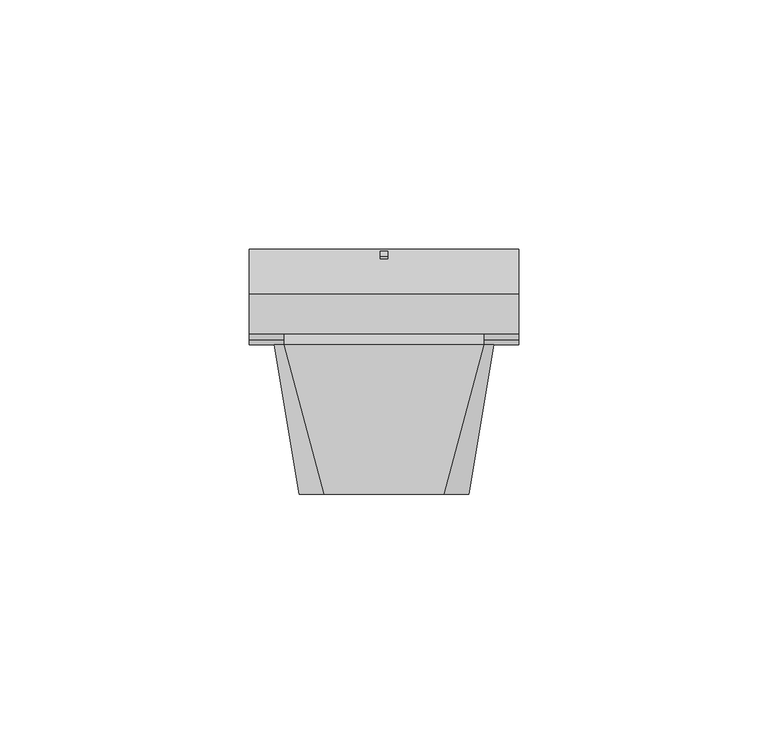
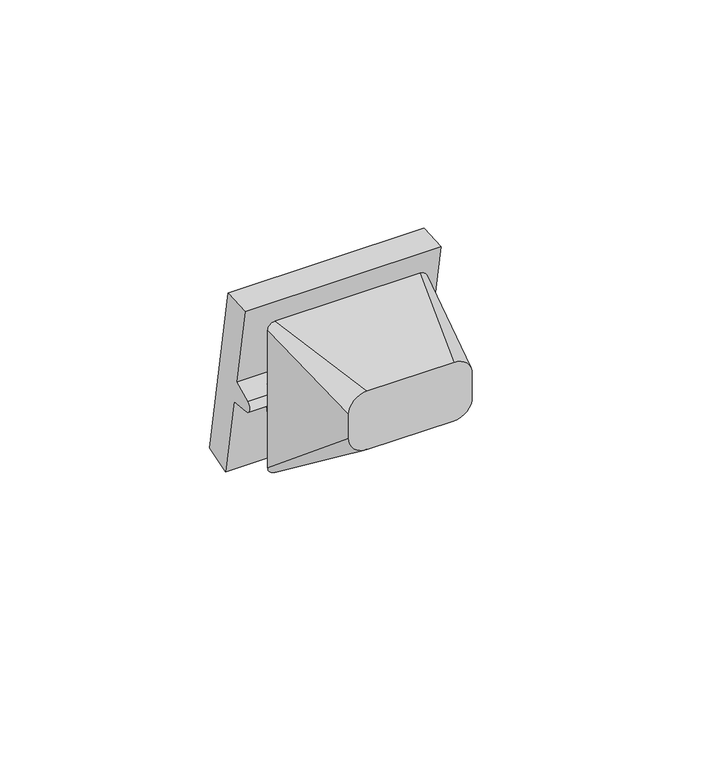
"""IFC4 building model written with IfcOpenShell, lengths in millimetres: proxy geometry, IEK_Brite_Механизм выключателя : В1 И_ВС10-1-1-БрА."""

import ifcopenshell
import ifcopenshell.guid

model = None  # the IFC model being written
_history = None  # IfcOwnerHistory: only IFC2X3 demands one
_inside = {}  # id of a spatial element -> (the spatial element, [elements in it])
_under = {}  # id of a project, library or spatial element -> (it, [spatial elements below it])
_declared = {}  # id of a project -> (the project, [libraries it declares])
_typed = {}  # id of a type object -> (the type object, [elements of that type])
_made_of = {}  # id of a material, layer set ... -> (it, [elements and type objects made of it])


def new_model(schema):
    """Start an empty IFC model of exactly this schema.

    Asked for "IFC4X3", IfcOpenShell would pick the latest addendum, in which some entities
    have other attributes; the version numbers below select the first issue.
    IFC2X3 requires an IfcOwnerHistory on every rooted entity: one is made here for all.
    """
    global model, _history
    if schema == "IFC4X3":
        model = ifcopenshell.file(schema_version=(4, 3, 0, 0))
    else:
        model = ifcopenshell.file(schema=schema)
    _inside.clear()
    _under.clear()
    _declared.clear()
    _typed.clear()
    _made_of.clear()
    _history = None
    if model.schema == "IFC2X3":
        org = make("IfcOrganization", Name="unknown")
        user = make(
            "IfcPersonAndOrganization",
            ThePerson=make("IfcPerson", FamilyName="unknown"),
            TheOrganization=org,
        )
        app = make(
            "IfcApplication",
            ApplicationDeveloper=org,
            Version="unknown",
            ApplicationFullName="unknown",
            ApplicationIdentifier="unknown",
        )
        _history = make(
            "IfcOwnerHistory",
            OwningUser=user,
            OwningApplication=app,
            ChangeAction="ADDED",
            CreationDate=0,
        )
    return model


def make(cls, **values):
    """One entity of the class cls with the attributes given. An attribute that is None is left unset."""
    return model.create_entity(
        cls, **{name: value for name, value in values.items() if value is not None}
    )


def rooted(cls, **values):
    """An entity with a GlobalId (a new one), such as an element, a storey or a relation."""
    return make(cls, GlobalId=ifcopenshell.guid.new(), OwnerHistory=_history, **values)


def si_unit(unit_type, name, prefix=None):
    """IfcSIUnit, for example si_unit("LENGTHUNIT", "METRE", prefix="MILLI")."""
    return make("IfcSIUnit", UnitType=unit_type, Prefix=prefix, Name=name)


def assignment(units):
    """IfcUnitAssignment: the units of a project."""
    return None if units is None else make("IfcUnitAssignment", Units=units)


def point(xyz):
    """IfcCartesianPoint."""
    return None if xyz is None else make("IfcCartesianPoint", Coordinates=xyz)


def direction(xyz):
    """IfcDirection."""
    return None if xyz is None else make("IfcDirection", DirectionRatios=xyz)


def frame(location, z_axis=None, x_axis=None):
    """IfcAxis2Placement3D, a coordinate frame: its origin and axes. An axis left out is left unset."""
    return make(
        "IfcAxis2Placement3D",
        Location=point(location),
        Axis=direction(z_axis),
        RefDirection=direction(x_axis),
    )


def frame_2d(location, x_axis=None):
    """IfcAxis2Placement2D, a coordinate frame in the plane: its origin and x axis."""
    return make(
        "IfcAxis2Placement2D", Location=point(location), RefDirection=direction(x_axis)
    )


def origin():
    """The frame at (0, 0, 0) with its axes left unset."""
    return frame((0.0, 0.0, 0.0))


def place(relative_to, where):
    """IfcLocalPlacement: puts the frame where relative to a parent placement (None: the world)."""
    return make(
        "IfcLocalPlacement", PlacementRelTo=relative_to, RelativePlacement=where
    )


def context(
    kind, dimensions, precision=None, world=None, true_north=None, identifier=None
):
    """IfcGeometricRepresentationContext, for example the 3D "Model" context."""
    return make(
        "IfcGeometricRepresentationContext",
        ContextIdentifier=identifier,
        ContextType=kind,
        CoordinateSpaceDimension=dimensions,
        Precision=precision,
        WorldCoordinateSystem=world,
        TrueNorth=true_north,
    )


def project(units=None, contexts=None):
    """IfcProject with its units and contexts."""
    return rooted(
        "IfcProject",
        Name="project",
        RepresentationContexts=contexts,
        UnitsInContext=assignment(units),
    )


def spatial(cls, under=None, at=None, **own):
    """A site, building, storey or space (cls), placed at a placement, below another one or the project."""
    s = rooted(cls, ObjectPlacement=at, **own)
    if under is not None:
        _under.setdefault(under.id(), (under, []))[1].append(s)
    return s


def polyline(points):
    """IfcPolyline through the points."""
    return make("IfcPolyline", Points=[point(p) for p in points])


def circle_curve(where, radius):
    """IfcCircle in the frame where."""
    return make("IfcCircle", Position=where, Radius=radius)


def trimmed(basis, trim1, trim2, sense, master):
    """IfcTrimmedCurve: the piece of a basis curve between two trims."""
    return make(
        "IfcTrimmedCurve",
        BasisCurve=basis,
        Trim1=trim1,
        Trim2=trim2,
        SenseAgreement=sense,
        MasterRepresentation=master,
    )


def segment(curve, same_sense, transition):
    """IfcCompositeCurveSegment."""
    return make(
        "IfcCompositeCurveSegment",
        Transition=transition,
        SameSense=same_sense,
        ParentCurve=curve,
    )


def composite_curve(segments, self_intersect=None):
    """IfcCompositeCurve: segments joined end to end."""
    return make("IfcCompositeCurve", Segments=segments, SelfIntersect=self_intersect)


def outline(outer, holes=None, kind="AREA"):
    """IfcArbitraryClosedProfileDef: a profile drawn as a closed curve; with holes, ...WithVoids."""
    if holes is None:
        return make("IfcArbitraryClosedProfileDef", ProfileType=kind, OuterCurve=outer)
    return make(
        "IfcArbitraryProfileDefWithVoids",
        ProfileType=kind,
        OuterCurve=outer,
        InnerCurves=holes,
    )


def extrude(swept, where, along, depth):
    """IfcExtrudedAreaSolid: the profile swept, set in the frame where, extruded along a direction by depth."""
    return make(
        "IfcExtrudedAreaSolid",
        SweptArea=swept,
        Position=where,
        ExtrudedDirection=direction(along),
        Depth=depth,
    )


def shape(context_of_items, identifier, shape_type, items):
    """IfcShapeRepresentation: the items that make up one representation, for example the "Body"."""
    return make(
        "IfcShapeRepresentation",
        ContextOfItems=context_of_items,
        RepresentationIdentifier=identifier,
        RepresentationType=shape_type,
        Items=items,
    )


def source(mapping_origin, context_of_items, identifier, shape_type, items):
    """IfcRepresentationMap: a shape defined once, which mapped items show again and again."""
    return make(
        "IfcRepresentationMap",
        MappingOrigin=mapping_origin,
        MappedRepresentation=shape(context_of_items, identifier, shape_type, items),
    )


def transform(
    local_origin,
    x_axis=None,
    y_axis=None,
    z_axis=None,
    scale=None,
    scale2=None,
    scale3=None,
    uniform=True,
):
    """IfcCartesianTransformationOperator3D, or its non-uniform kind. x_axis, y_axis, z_axis: its Axis1, 2, 3."""
    if uniform:
        return make(
            "IfcCartesianTransformationOperator3D",
            Axis1=direction(x_axis),
            Axis2=direction(y_axis),
            LocalOrigin=point(local_origin),
            Scale=scale,
            Axis3=direction(z_axis),
        )
    return make(
        "IfcCartesianTransformationOperator3DnonUniform",
        Axis1=direction(x_axis),
        Axis2=direction(y_axis),
        LocalOrigin=point(local_origin),
        Scale=scale,
        Axis3=direction(z_axis),
        Scale2=scale2,
        Scale3=scale3,
    )


def mapped(mapping_source, mapping_target):
    """IfcMappedItem: shows the shape of a source again, moved by a transform."""
    return make(
        "IfcMappedItem", MappingSource=mapping_source, MappingTarget=mapping_target
    )


def made_of(thing, what):
    """Note that an element or type object is made of a material, layer set ...; save() writes the relation."""
    if what is not None:
        _made_of.setdefault(what.id(), (what, []))[1].append(thing)
    return thing


def element(
    cls,
    number,
    at=None,
    inside=None,
    cuts=None,
    type_object=None,
    material=None,
    context=None,
    identifier="Body",
    shape_type=None,
    held_by="IfcProductDefinitionShape",
    body=None,
    shapes=None,
    **own,
):
    """One element of the class cls, such as IfcWall. Its Tag is "e" and its number.

    at: its placement. inside: the storey or other place that contains it. cuts: it is an
    opening in that element (IfcRelVoidsElement). A single representation is given by context,
    identifier, shape_type and body (its items); several are given by shapes. held_by: the class
    of the entity that holds the representations. save() writes the other relations.
    """
    e = rooted(cls, Tag="e%d" % number, ObjectPlacement=at, **own)
    if body is not None:
        shapes = [shape(context, identifier, shape_type, body)]
    if shapes is not None:
        e.Representation = make(held_by, Representations=shapes)
    if inside is not None:
        _inside.setdefault(inside.id(), (inside, []))[1].append(e)
    if cuts is not None:
        rooted(
            "IfcRelVoidsElement", RelatingBuildingElement=cuts, RelatedOpeningElement=e
        )
    if type_object is not None:
        _typed.setdefault(type_object.id(), (type_object, []))[1].append(e)
    return made_of(e, material)


def aggregate(whole, parts):
    """IfcRelAggregates: a whole, such as a stair, and the parts it consists of."""
    return rooted("IfcRelAggregates", RelatingObject=whole, RelatedObjects=parts)


def save(model, path):
    """Write the relations noted so far, then the file.

    IfcRelAggregates (storeys below a building ...), IfcRelContainedInSpatialStructure (elements
    in a storey), IfcRelDefinesByType, IfcRelAssociatesMaterial and IfcRelDeclares: one each for
    every whole, place, type object, material and project.
    """
    for whole, parts in _under.values():
        aggregate(whole, parts)
    for where, things in _inside.values():
        rooted(
            "IfcRelContainedInSpatialStructure",
            RelatedElements=things,
            RelatingStructure=where,
        )
    for kind, things in _typed.values():
        rooted("IfcRelDefinesByType", RelatedObjects=things, RelatingType=kind)
    for what, things in _made_of.values():
        rooted("IfcRelAssociatesMaterial", RelatedObjects=things, RelatingMaterial=what)
    for by, libraries in _declared.values():
        rooted("IfcRelDeclares", RelatingContext=by, RelatedDefinitions=libraries)
    model.write(path)


def plane_surface(at):
    """IfcPlane: the flat surface through the origin of the frame at, square to its z axis."""
    return make("IfcPlane", Position=at)


def spline_surface(u_degree, v_degree, points, u_multiplicities, v_multiplicities, u_knots, v_knots, weights=None):
    """IfcBSplineSurfaceWithKnots; with weights, IfcRationalBSplineSurfaceWithKnots. points: one row for each step in u."""
    own = dict(
        UDegree=u_degree,
        VDegree=v_degree,
        ControlPointsList=[[point(p) for p in row] for row in points],
        SurfaceForm="UNSPECIFIED",
        UClosed=False,
        VClosed=False,
        SelfIntersect=False,
        UMultiplicities=u_multiplicities,
        VMultiplicities=v_multiplicities,
        UKnots=u_knots,
        VKnots=v_knots,
        KnotSpec="UNSPECIFIED",
    )
    if weights is None:
        return make("IfcBSplineSurfaceWithKnots", **own)
    return make("IfcRationalBSplineSurfaceWithKnots", WeightsData=weights, **own)


def advanced_brep(points, edges, surfaces, faces):
    """IfcAdvancedBrep: a solid bounded by faces that lie on surfaces and meet in shared edges.

    An edge is (start, end): straight between two places in points (the first is 0);
    or (start, end, curve); or (start, end, curve, False) where it runs against its curve.
    A face is (place in surfaces, loops), or (place, loops, False) where it looks against
    its surface's normal. A loop lists edges by number (the first is 1), with a minus sign
    where the edge is run from its end to its start. The first loop is the outer one.
    """
    corners = [point(p) for p in points]
    vertices = [make("IfcVertexPoint", VertexGeometry=c) for c in corners]
    made = []
    for start, end, *more in edges:
        made.append(
            make(
                "IfcEdgeCurve",
                EdgeStart=vertices[start],
                EdgeEnd=vertices[end],
                EdgeGeometry=more[0] if more else make("IfcPolyline", Points=[corners[start], corners[end]]),
                SameSense=more[1] if len(more) > 1 else True,
            )
        )
    hull = []
    for where, loops, *sense in faces:
        bounds = []
        for j, loop in enumerate(loops):
            ring = [make("IfcOrientedEdge", EdgeElement=made[abs(k) - 1], Orientation=k > 0) for k in loop]
            bounds.append(
                make(
                    "IfcFaceOuterBound" if j == 0 else "IfcFaceBound",
                    Bound=make("IfcEdgeLoop", EdgeList=ring),
                    Orientation=True,
                )
            )
        hull.append(make("IfcAdvancedFace", Bounds=bounds, FaceSurface=surfaces[where], SameSense=sense[0] if sense else True))
    return make("IfcAdvancedBrep", Outer=make("IfcClosedShell", CfsFaces=hull))


def electrical_fixtures_2bdeffb2(model_context):
    return source(origin(), model_context, "Body", "SolidModel", [
        extrude(outline(polyline([(0.0, -1.473521), (0.0, 0.0), (0.5, 0.0), (0.5, -1.473521), (0.0, -1.473521)])), frame((0.7367605, 18.7841088, -19.3127712), z_axis=(0.0, -0.17364817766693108, 0.984807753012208), x_axis=(0.0, -0.984807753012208, -0.17364817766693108)), (0.0, 0.0, 1.0), 5.9708694),
        advanced_brep(
        [(-12.0, -30.0, 17.0), (-17.0, -30.0, 12.0), (-17.0, -30.0, 5.0), (-12.0, -30.0, 0.0), (12.0, -30.0, 0.0), (17.0, -30.0, 5.0), (17.0, -30.0, 12.0), (12.0, -30.0, 17.0), (20.0, 0.0, 22.0), (22.0, 0.0, 20.0), (22.0, 0.0, -20.0), (20.0, 0.0, -22.0), (-20.0, 0.0, -22.0), (-22.0, 0.0, -20.0), (-22.0, 0.0, 20.0), (-20.0, 0.0, 22.0), (20.0, 4.4942733, -3.0892494), (-20.0, 4.4942733, -3.0892494)],
        [
            (0, 1, circle_curve(frame((-12.0, -30.0, 12.0), z_axis=(0.0, -1.0, 0.0), x_axis=(1.0, 0.0, 0.0)), 5.0)),
            (1, 2),
            (2, 3, circle_curve(frame((-12.0, -30.0, 5.0), z_axis=(0.0, -1.0, 0.0), x_axis=(1.0, 0.0, 0.0)), 5.0)),
            (3, 4),
            (4, 5, circle_curve(frame((12.0, -30.0, 5.0), z_axis=(0.0, -1.0, 0.0), x_axis=(1.0, 0.0, 0.0)), 5.0)),
            (5, 6),
            (6, 7, circle_curve(frame((12.0, -30.0, 12.0), z_axis=(0.0, -1.0, 0.0), x_axis=(1.0, 0.0, 0.0)), 5.0)),
            (7, 0),
            (8, 9, circle_curve(frame((20.0, 0.0, 20.0), z_axis=(0.0, 1.0, 0.0), x_axis=(1.0, 0.0, 0.0)), 2.0)),
            (9, 10),
            (10, 11, circle_curve(frame((20.0, 0.0, -20.0), z_axis=(0.0, 1.0, 0.0), x_axis=(1.0, 0.0, 0.0)), 2.0)),
            (11, 8),
            (12, 13, circle_curve(frame((-20.0, 0.0, -20.0), z_axis=(0.0, 1.0, 0.0), x_axis=(1.0, 0.0, 0.0)), 2.0)),
            (13, 14),
            (14, 15, circle_curve(frame((-20.0, 0.0, 20.0), z_axis=(0.0, 1.0, 0.0), x_axis=(1.0, 0.0, 0.0)), 2.0)),
            (15, 12),
            (7, 8),
            (8, 15),
            (15, 0),
            (6, 9),
            (5, 10),
            (4, 11),
            (3, 12),
            (12, 11),
            (2, 13),
            (1, 14),
            (11, 16),
            (16, 8),
            (15, 17),
            (17, 12),
            (17, 16),
        ],
        [
            plane_surface(frame((0.0, -30.0, 8.5), z_axis=(0.0, -1.0, 0.0), x_axis=(-1.0, 0.0, 0.0))),
            plane_surface(frame((0.0, 0.0, 0.0), z_axis=(0.0, 1.0, 0.0), x_axis=(-1.0, 0.0, 0.0))),
            plane_surface(frame((0.0, 0.0, 22.0), z_axis=(0.0, -0.16439898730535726, 0.9863939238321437), x_axis=(-1.0, 0.0, 0.0))),
            spline_surface(2, 1, [[(22.0, 0.0, 20.0), (17.0, -30.0, 12.0)], [(22.0, 0.0, 22.0), (17.0, -30.0, 17.0)], [(20.0, 0.0, 22.0), (12.0, -30.0, 17.0)]], [3, 3], [2, 2], [0.0, 1.0], [0.0, 1.0], weights=[[1.0, 1.0], [0.7071067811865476, 0.7071067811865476], [1.0, 1.0]]),
            plane_surface(frame((22.0, 0.0, 0.0), z_axis=(0.9863939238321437, -0.1643989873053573, 0.0), x_axis=(0.0, 0.0, 1.0))),
            spline_surface(2, 1, [[(20.0, 0.0, -22.0), (12.0, -30.0, 0.0)], [(22.0, 0.0, -22.0), (17.0, -30.0, 0.0)], [(22.0, 0.0, -20.0), (17.0, -30.0, 5.0)]], [3, 3], [2, 2], [0.0, 1.0], [0.0, 1.0], weights=[[1.0, 1.0], [0.7071067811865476, 0.7071067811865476], [1.0, 1.0]]),
            plane_surface(frame((0.0, 0.0, -22.0), z_axis=(0.0, -0.591363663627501, -0.8064049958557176), x_axis=(1.0, 0.0, 0.0))),
            spline_surface(2, 1, [[(-22.0, 0.0, -20.0), (-17.0, -30.0, 5.0)], [(-22.0, 0.0, -22.0), (-17.0, -30.0, 0.0)], [(-20.0, 0.0, -22.0), (-12.0, -30.0, 0.0)]], [3, 3], [2, 2], [0.0, 1.0], [0.0, 1.0], weights=[[1.0, 1.0], [0.7071067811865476, 0.7071067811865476], [1.0, 1.0]]),
            plane_surface(frame((-22.0, 0.0, 0.0), z_axis=(-0.9863939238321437, -0.1643989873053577, 0.0), x_axis=(0.0, 0.0, -1.0))),
            spline_surface(2, 1, [[(-20.0, 0.0, 22.0), (-12.0, -30.0, 17.0)], [(-22.0, 0.0, 22.0), (-17.0, -30.0, 17.0)], [(-22.0, 0.0, 20.0), (-17.0, -30.0, 12.0)]], [3, 3], [2, 2], [0.0, 1.0], [0.0, 1.0], weights=[[1.0, 1.0], [0.7071067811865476, 0.7071067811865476], [1.0, 1.0]]),
            plane_surface(frame((20.0, 0.0, -22.0), z_axis=(1.0, 0.0, 0.0), x_axis=(0.0, 0.23121707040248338, 0.9729021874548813))),
            plane_surface(frame((-20.0, 0.0, -22.0), z_axis=(-1.0, 0.0, 0.0), x_axis=(0.0, -0.23121707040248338, -0.9729021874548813))),
            plane_surface(frame((20.0, 0.0, -22.0), z_axis=(0.0, 0.9729021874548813, -0.23121707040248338), x_axis=(-1.0, 0.0, 0.0))),
            plane_surface(frame((20.0, 4.4942733, -3.0892494), z_axis=(0.0, 0.9843320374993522, 0.17632481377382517), x_axis=(-1.0, 0.0, 0.0))),
        ],
        [
            (0, [[1, 2, 3, 4, 5, 6, 7, 8]]),
            (1, [[9, 10, 11, 12]]),
            (1, [[13, 14, 15, 16]]),
            (2, [[-8, 17, 18, 19]]),
            (3, [[-7, 20, -9, -17]]),
            (4, [[-6, 21, -10, -20]]),
            (5, [[-5, 22, -11, -21]]),
            (6, [[-4, 23, 24, -22]]),
            (7, [[-3, 25, -13, -23]]),
            (8, [[-2, 26, -14, -25]]),
            (9, [[-1, -19, -15, -26]]),
            (10, [[27, 28, -12]]),
            (11, [[29, 30, -16]]),
            (12, [[-27, -24, -30, 31]]),
            (13, [[-28, -31, -29, -18]]),
        ],
    ),
        extrude(outline(composite_curve([segment(polyline([(19.1247035, -24.1237652), (11.4236286, -26.3320129), (7.3756597, -3.3748404), (1.5972872, -2.8692983)]), True, "CONTINUOUS"), segment(trimmed(circle_curve(frame_2d((1.7530049, -1.0894363)), 1.7866608), [point((1.5972872, -2.8692983))], [point((0.9979294, 0.5298284))], False, "CARTESIAN"), True, "CONTINUOUS"), segment(polyline([(0.9979294, 0.5298284), (6.2549179, 2.9812023), (2.206949, 25.9383748), (10.1988574, 26.4972235), (19.1247035, -24.1237652)]), True, "CONTINUOUS")], self_intersect=False)), frame((-27.0, 0.0, 0.0), z_axis=(1.0, 0.0, 0.0), x_axis=(0.0, 1.0, 0.0)), (0.0, 0.0, 1.0), 54.0),
    ])


if __name__ == "__main__":
    model = new_model("IFC4")
    model_context = context("Model", 3, world=origin())
    ifc_project = project(units=[si_unit("LENGTHUNIT", "METRE", prefix="MILLI")], contexts=[model_context])
    site = spatial("IfcSite", under=ifc_project)
    building = spatial("IfcBuilding", under=site)
    placement = place(None, origin())
    electrical_fixtures_shape = electrical_fixtures_2bdeffb2(model_context)
    element("IfcBuildingElementProxy", 1, Name="IEK_Brite_Механизм выключателя : В1 И_ВС10-1-1-БрА", ObjectType="IEK_Brite_Механизм выключателя : В1 И_ВС10-1-1-БрА", at=placement, inside=building, context=model_context, shape_type="MappedRepresentation", body=[
        mapped(electrical_fixtures_shape, transform((0.0, 0.0, 0.0), x_axis=(1.0, 0.0, 0.0), y_axis=(0.0, 1.0, 0.0), z_axis=(0.0, 0.0, 1.0))),
    ])
    save(model, "model.ifc")
